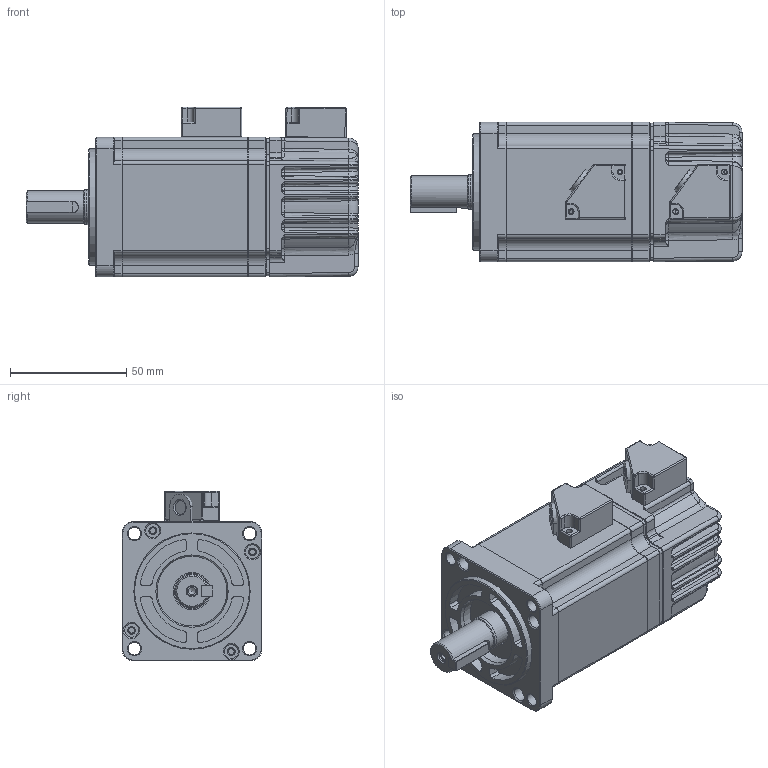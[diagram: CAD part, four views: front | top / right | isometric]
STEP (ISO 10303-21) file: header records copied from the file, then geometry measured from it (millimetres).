
FILE_DESCRIPTION( ( 'Unknown' ), '1' );
FILE_NAME( 'C:/Documents and Settings/leon/桌面/工作資料/3D型錄相關/3D組立圖(給子勤)/要寄的壓縮檔/KM無煞車機種/stp/DTSC06201C3NGUD0K.stp', 'Unknown', ( 'Unknown' ), ( 'Unknown' ), 'PSStep 14.0', 'Unknown', ' ' );
FILE_SCHEMA( ( 'AUTOMOTIVE_DESIGN { 1 0 10303 214 1 1 1 1 }' ) );
Length unit declared in the file: millimetre
Products named in the file (15): 0S140E1203822-00; 0S152W6A15H01-00-oa1; 0S180ESC3BAUP-02; 0S331ESA0B20P-02; 0S871WHPPCN20-02-oa0; 0S200ES00000F-00; 0S211ES00000F-00; Assem1; 0S301E0A0B30P-01; 0S861EB152211-00; 0S362E6038PB1-00; 0S152W6A15H01-00; 0S871WHPPCN20-02; 0S302E0A0B30P-03; 0Y204E0520001-00
Assembly tree (14 placements, depth 4):
  Assem1
    0S301E0A0B30P-01
    0S861EB152211-00
    0S362E6038PB1-00
    0S152W6A15H01-00
    0S871WHPPCN20-02
    0S302E0A0B30P-03
    0Y204E0520001-00
    0S200ES00000F-00
      0S211ES00000F-00
    0S180ESC3BAUP-02
      0S331ESA0B20P-02
      0S871WHPPCN20-02-oa0
      0S140E1203822-00
        0S152W6A15H01-00-oa1
Bounding box: 142.8 x 60 x 73 mm (x, y, z)
Volume: 384140.4 mm3; surface area: 76557.7 mm2
Topology: 11 solids, 11 shells, 991 faces, 2445 edges, 1432 vertices
Faces by surface type: cylinder 318, plane 307, bspline 214, cone 91, torus 39, sphere 22
Full cylindrical faces by diameter (mm): 1.567 x4, 2.013 x1, 2.2 x2, 2.3 x2, 2.459 x12, 2.5 x4, 3.242 x1, 3.3 x4, 3.5 x8, 4.2 x1, 5.5 x4, 6 x8, 14 x1, 14.8 x1, 14.9 x1, 15 x1, 16 x1, 30 x1, 50 x1, 52 x1, 57.6 x2
Entity records: 49289 total; most frequent: CARTESIAN_POINT 19717, ORIENTED_EDGE 4438, DIRECTION 4376, EDGE_CURVE 2219, AXIS2_PLACEMENT_3D 1714, VERTEX_POINT 1374, EDGE_LOOP 1170, FACE_OUTER_BOUND 1053
